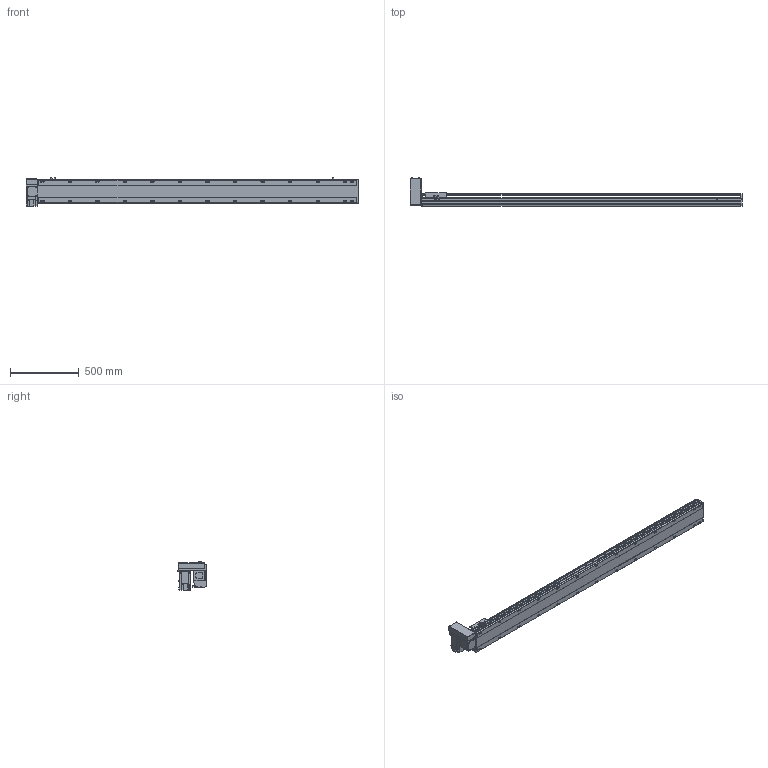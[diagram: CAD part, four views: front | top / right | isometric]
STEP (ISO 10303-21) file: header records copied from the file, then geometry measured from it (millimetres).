
FILE_DESCRIPTION(/* description */ ('STEP AP214'),/* implementation_level */ '2;1');
FILE_NAME(/* name */ 'PBS170-P40-S2050-RU-T75-C1-N(0)',/* time_stamp */ '2022-06-08T08:00:03+02:00',/* author */ ('License CC BY-ND 4.0'),/* organization */ ('CADENAS'),/* preprocessor_version */ 'ST-DEVELOPER v18.102',/* originating_system */ 'PARTsolutions',/* authorisation */ ' ');
FILE_SCHEMA (('AUTOMOTIVE_DESIGN {1 0 10303 214 3 1 1}'));
Length unit declared in the file: millimetre
Products named in the file (7): PBS170-P40-S2050-RU-T75-C1-N(0); PBS170_sensor; PBS170_plant; PBS170_sliser; T75-p1; PBS170T-RU_motors; PBS170-S2050()_body
Assembly tree (8 placements, depth 2):
  PBS170-P40-S2050-RU-T75-C1-N(0)
    PBS170_sensor  x3
    PBS170_plant
    PBS170_sliser
    T75-p1
    PBS170T-RU_motors
    PBS170-S2050()_body
Bounding box: 2413 x 206 x 205.3 mm (x, y, z)
Volume: 18469246.3 mm3; surface area: 2343893.3 mm2
Topology: 8 solids, 8 shells, 1162 faces, 3075 edges, 2004 vertices
Faces by surface type: plane 717, cylinder 379, cone 56, sphere 8, torus 2
Full cylindrical faces by diameter (mm): 3.242 x4, 4 x2, 4.4 x4, 4.5 x6, 4.917 x4, 6 x9, 6.647 x34, 7 x2, 7.5 x4, 8 x8, 8.5 x26, 10 x4, 10.5 x26, 11 x2, 30 x2, 40 x1, 70 x1
Entity records: 33408 total; most frequent: CARTESIAN_POINT 6273, DIRECTION 5650, ORIENTED_EDGE 5328, EDGE_CURVE 2664, AXIS2_PLACEMENT_3D 1987, VERTEX_POINT 1850, LINE 1676, VECTOR 1676
